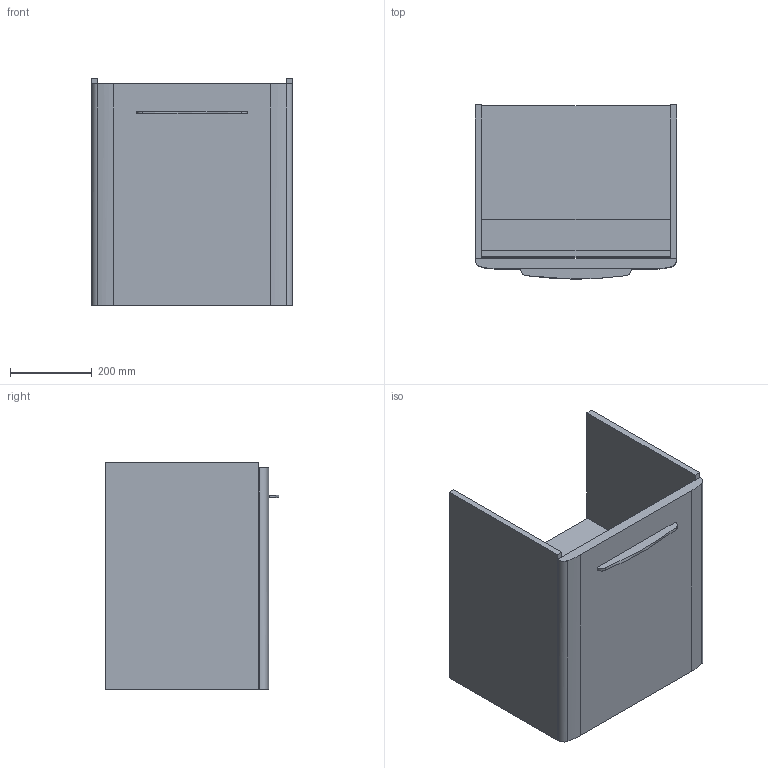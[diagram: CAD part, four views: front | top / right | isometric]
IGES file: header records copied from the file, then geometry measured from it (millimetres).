
Global section: file name: 500179; native system: Autodesk Inventor 2018; preprocessor: unknown; author: JANAN; date: 20191126.150254; units: millimetre
Bounding box: 493 x 425.9 x 557 mm (x, y, z)
Volume: 19968955.8 mm3; surface area: 2325994.1 mm2
Topology: 2 solids, 2 shells, 45 faces, 114 edges, 76 vertices
Faces by surface type: bspline 45
